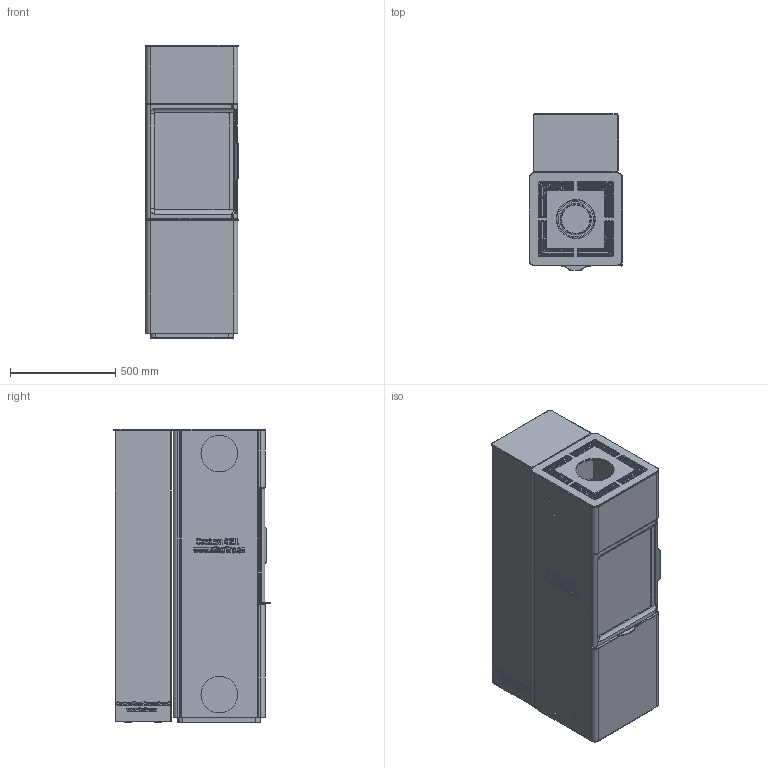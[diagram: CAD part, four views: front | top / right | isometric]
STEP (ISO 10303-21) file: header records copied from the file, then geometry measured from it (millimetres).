
FILE_DESCRIPTION(/* description */ ('Unknown'),/* implementation_level */ '2;1');
FILE_NAME(/* name */ 'C410L Interior model',/* time_stamp */ '2026-08-14T11:45:51+02:00',/* author */ ('Unknown'),/* organization */ ('Unknown'),/* preprocessor_version */ 'ST-DEVELOPER v20',/* originating_system */ 'Solid Edge',/* authorisation */ 'Unknown');
FILE_SCHEMA (('AUTOMOTIVE_DESIGN {1 0 10303 214 3 1 1}'));
Products named in the file (7): DSN1152724; DSN1152293; DSN1152733; DSN1152548; DSN1152653; DSN1152682; DSN1153045
Assembly tree (7 placements, depth 2):
  DSN1152724
    DSN1152293
    DSN1152733
    DSN1152548  x2
    DSN1152653
    DSN1152682
    DSN1153045
Bounding box: 443.76 x 740.79 x 1392 mm (x, y, z)
Volume: 156480268.9 mm3; surface area: 12879116.1 mm2
Topology: 9 solids, 9 shells, 2622 faces, 6787 edges, 4384 vertices
Faces by surface type: plane 1721, bspline 482, cylinder 351, torus 44, sphere 15, cone 9
Full cylindrical faces by diameter (mm): 8 x2, 25 x2, 30 x4, 32.5 x4, 38 x4, 98 x1, 135.222 x1, 140 x1, 145.23 x1, 168 x1, 173.696 x2, 180.688 x1
Entity records: 111065 total; most frequent: CARTESIAN_POINT 44554, ORIENTED_EDGE 13424, DIRECTION 9195, EDGE_CURVE 6712, VERTEX_POINT 4365, LINE 3195, VECTOR 3195, AXIS2_PLACEMENT_3D 3000
